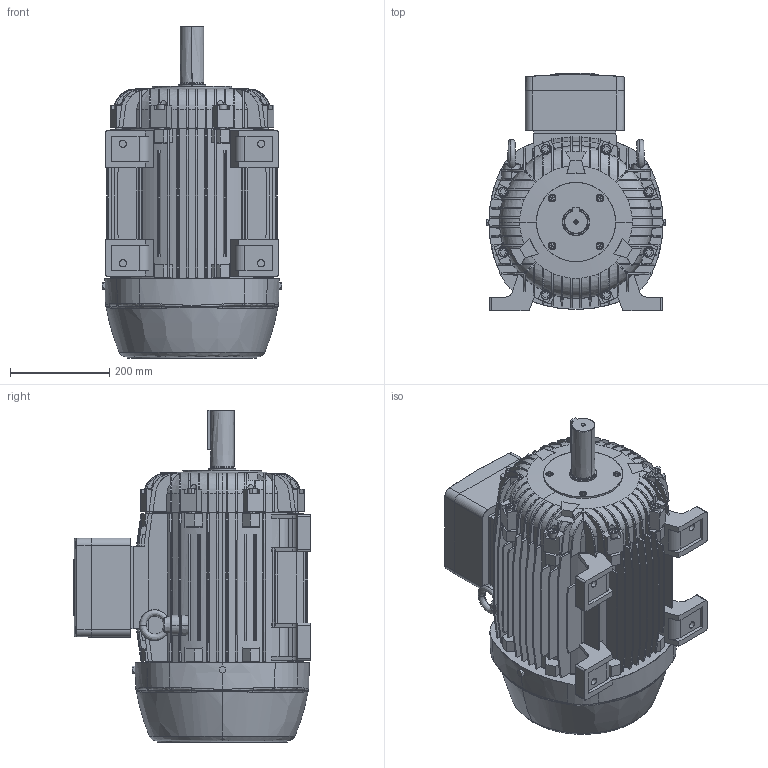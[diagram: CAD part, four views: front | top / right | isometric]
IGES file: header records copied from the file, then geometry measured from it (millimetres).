
Start section: SolidWorks IGES file using analytic representation for surfaces
Global section: file name: Y:\NEMA\EXPLOSION_PROOF_MOTOR\10_FRAME_284T\STANDARD\IGS\284T_TOP.IGS; native system: SolidWorks 2009; preprocessor: SolidWorks 2009; author: carlosd; date: 110301.111641; units: millimetre
Bounding box: 363 x 479.8 x 670.68 mm (x, y, z)
Surface area: 2446030 mm2 (no closed solid volume)
Topology: 0 solids, 0 shells, 1754 faces, 21541 edges, 21497 vertices
Faces by surface type: bspline 1341, revolution 413
